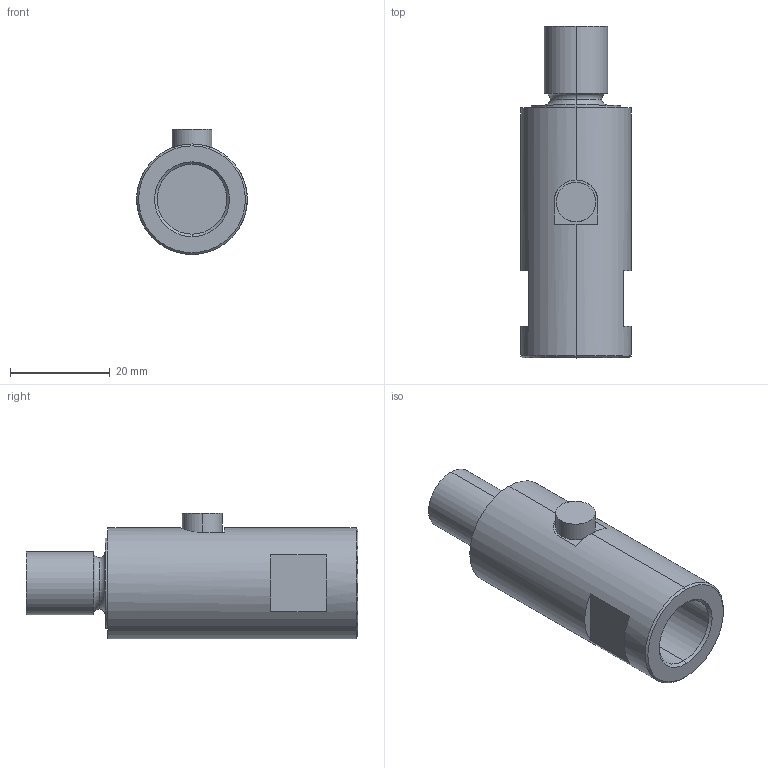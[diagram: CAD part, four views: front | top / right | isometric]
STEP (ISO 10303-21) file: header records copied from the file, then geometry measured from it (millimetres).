
FILE_DESCRIPTION (( 'STEP AP214' ), '1' );
FILE_NAME ('FINAL ASBY SS1735-1KLB.STEP', '2024-08-12T15:12:32', ( '' ), ( '' ), 'SwSTEP 2.0', 'SolidWorks 2008', '' );
FILE_SCHEMA (( 'AUTOMOTIVE_DESIGN' ));
Length unit declared in the file: inch
Products named in the file (1): FINAL ASBY SS1735-1KLB
Bounding box: 22.23 x 66.67 x 25.15 mm (x, y, z)
Volume: 17509.4 mm3; surface area: 6214.6 mm2
Topology: 1 solids, 1 shells, 33 faces, 67 edges, 42 vertices
Faces by surface type: plane 14, cylinder 11, torus 4, cone 4
Entity records: 931 total; most frequent: CARTESIAN_POINT 175, DIRECTION 172, ORIENTED_EDGE 134, AXIS2_PLACEMENT_3D 73, EDGE_CURVE 67, VERTEX_POINT 42, EDGE_LOOP 39, CIRCLE 39
